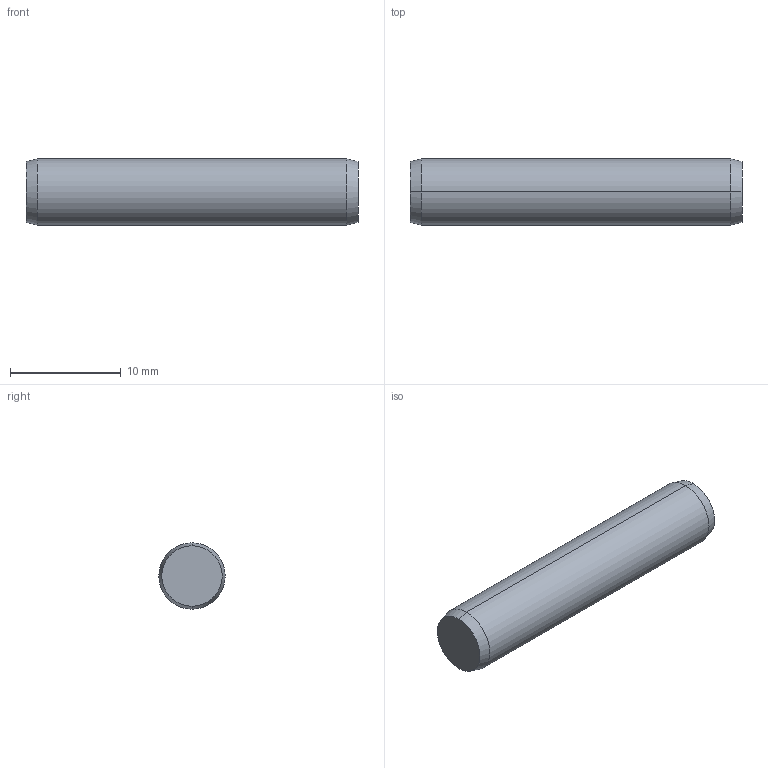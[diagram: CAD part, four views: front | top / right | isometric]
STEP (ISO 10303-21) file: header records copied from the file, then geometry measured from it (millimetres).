
FILE_DESCRIPTION (( 'STEP AP203' ), '1' );
FILE_NAME ('P1206.060-030.step', '2017-06-14T08:21:33', ( 'User' ), ( '' ), 'SwSTEP 2.0', 'SolidWorks 2009', '' );
FILE_SCHEMA (( 'CONFIG_CONTROL_DESIGN' ));
Length unit declared in the file: millimetre
Products named in the file (1): P1206.060-030
Bounding box: 30 x 6 x 6 mm (x, y, z)
Volume: 843.3 mm3; surface area: 612 mm2
Topology: 1 solids, 1 shells, 8 faces, 14 edges, 8 vertices
Faces by surface type: cone 4, cylinder 2, plane 2
Entity records: 271 total; most frequent: DIRECTION 40, CARTESIAN_POINT 31, ORIENTED_EDGE 28, AXIS2_PLACEMENT_3D 17, EDGE_CURVE 14, ADVANCED_FACE 8, EDGE_LOOP 8, VERTEX_POINT 8
